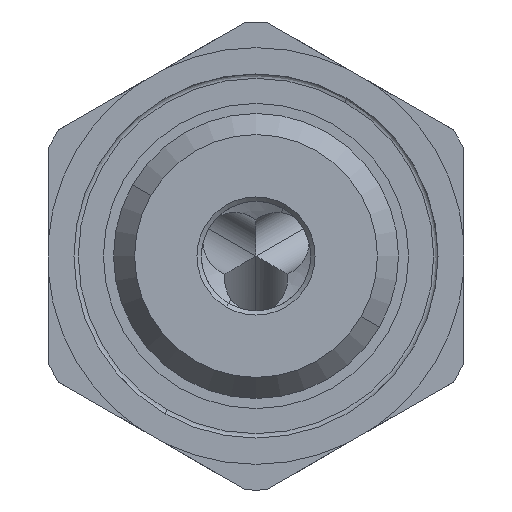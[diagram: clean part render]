
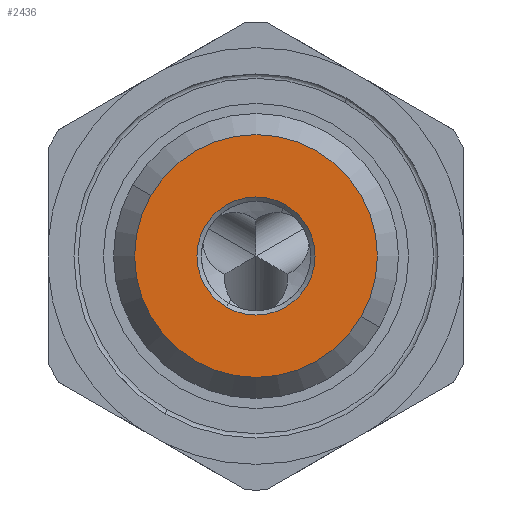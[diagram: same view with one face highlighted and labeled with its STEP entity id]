
A CAD part, front view. The second image highlights one B-rep face of the part: STEP entity #2436.
In plain terms, the highlighted planar face has unit normal (0, -1, 0) as drawn and (-1, 0, 0) by its records, which use the part's own axes.
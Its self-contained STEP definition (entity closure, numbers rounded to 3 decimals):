
#225=CARTESIAN_POINT('',(-27.0,10.2,0.0));
#226=VERTEX_POINT('',#225);
#233=CARTESIAN_POINT('',(-27.0,-0.9,0.));
#234=VERTEX_POINT('',#233);
#235=CARTESIAN_POINT('',(-27.0,4.65,0.0));
#236=DIRECTION('',(1.0,0.0,0.0));
#237=DIRECTION('',(0.0,1.0,0.0));
#238=AXIS2_PLACEMENT_3D('',#235,#236,#237);
#239=CIRCLE('',#238,5.55);
#240=EDGE_CURVE('',#226,#234,#239,.T.);
#1707=CARTESIAN_POINT('',(-27.0,4.65,-2.7));
#1708=VERTEX_POINT('',#1707);
#1722=CARTESIAN_POINT('',(-27.0,4.65,2.7));
#1723=VERTEX_POINT('',#1722);
#1730=CARTESIAN_POINT('',(-27.0,4.65,0.0));
#1731=DIRECTION('',(-1.0,0.0,0.0));
#1732=DIRECTION('',(0.0,0.0,-1.0));
#1733=AXIS2_PLACEMENT_3D('',#1730,#1731,#1732);
#1734=CIRCLE('',#1733,2.7);
#1735=EDGE_CURVE('',#1723,#1708,#1734,.T.);
#2366=CARTESIAN_POINT('',(-27.0,4.65,0.0));
#2367=DIRECTION('',(-1.0,0.0,0.0));
#2368=DIRECTION('',(0.0,0.0,-1.0));
#2369=AXIS2_PLACEMENT_3D('',#2366,#2367,#2368);
#2370=CIRCLE('',#2369,2.7);
#2371=EDGE_CURVE('',#1708,#1723,#2370,.T.);
#2417=CARTESIAN_POINT('',(-27.0,5.925,0.0));
#2418=DIRECTION('',(-1.0,0.0,0.0));
#2419=DIRECTION('',(0.0,0.0,1.0));
#2420=AXIS2_PLACEMENT_3D('',#2417,#2418,#2419);
#2421=PLANE('',#2420);
#2422=ORIENTED_EDGE('',*,*,#240,.F.);
#2423=CARTESIAN_POINT('',(-27.0,4.65,0.0));
#2424=DIRECTION('',(1.0,0.0,0.0));
#2425=DIRECTION('',(0.0,1.0,0.0));
#2426=AXIS2_PLACEMENT_3D('',#2423,#2424,#2425);
#2427=CIRCLE('',#2426,5.55);
#2428=EDGE_CURVE('',#234,#226,#2427,.T.);
#2429=ORIENTED_EDGE('',*,*,#2428,.F.);
#2430=EDGE_LOOP('',(#2422,#2429));
#2431=FACE_OUTER_BOUND('',#2430,.T.);
#2432=ORIENTED_EDGE('',*,*,#1735,.F.);
#2433=ORIENTED_EDGE('',*,*,#2371,.F.);
#2434=EDGE_LOOP('',(#2432,#2433));
#2435=FACE_BOUND('',#2434,.T.);
#2436=ADVANCED_FACE('',(#2431,#2435),#2421,.T.);
